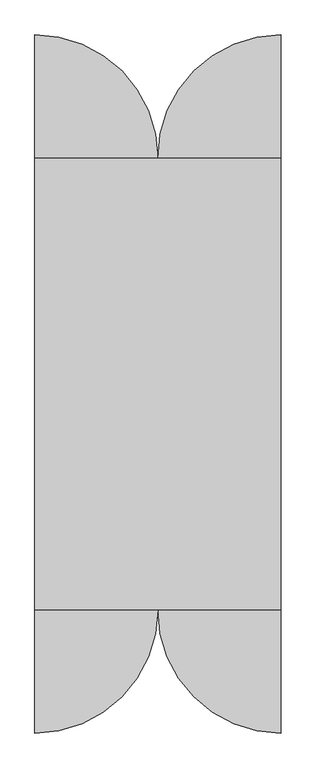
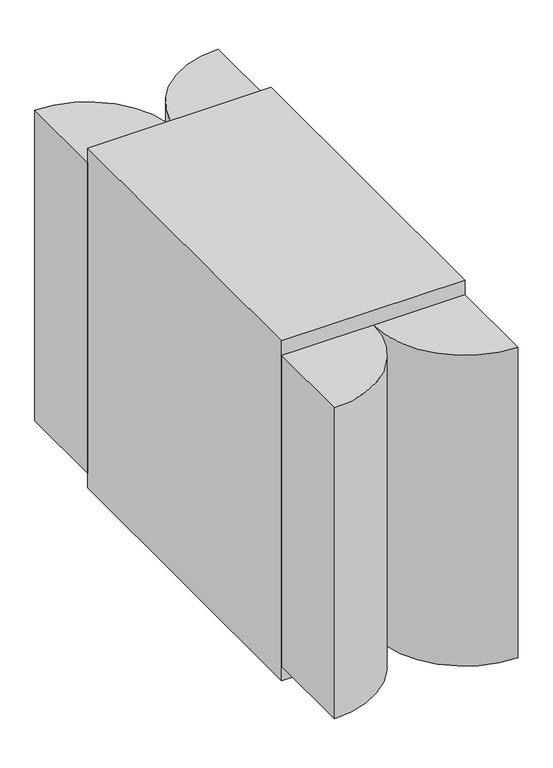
"""IFC4 building model written with IfcOpenShell, lengths in millimetres: proxy geometry, 30400_受変電設備_前後面保守形_低圧動力盤_TR+MCCB : 6.6kV/210V_油入_150kVA."""

from ifc_helpers import new_model, si_unit, point, frame, frame_2d, origin, origin_with_axes, place, context, project, spatial, polyline, circle_curve, trimmed, segment, composite_curve, outline, extrude, source, transform, mapped, element, save


def electrical_equipment_307397fe(model_context):
    return source(origin(), model_context, "Body", "SweptSolid", [
        extrude(outline(composite_curve([segment(polyline([(600.0, 1700.0), (600.0, 1100.0), (0.0, 1100.0)]), True, "CONTINUOUS"), segment(trimmed(circle_curve(frame_2d((600.0, 1100.0)), 600.0), [point((0.0, 1100.0))], [point((600.0, 1700.0))], False, "CARTESIAN"), True, "CONTINUOUS")], self_intersect=False)), frame((0.0, 0.0, 100.0), z_axis=(0.0, 0.0, 1.0), x_axis=(1.0, 0.0, 0.0)), (0.0, 0.0, 1.0), 2150.0),
        extrude(outline(composite_curve([segment(trimmed(circle_curve(frame_2d((-600.0, 1100.0)), 600.0), [point((-600.0, 1700.0))], [point((0.0, 1100.0))], False, "CARTESIAN"), True, "CONTINUOUS"), segment(polyline([(0.0, 1100.0), (-600.0, 1100.0), (-600.0, 1700.0)]), True, "CONTINUOUS")], self_intersect=False)), frame((0.0, 0.0, 100.0), z_axis=(0.0, 0.0, 1.0), x_axis=(1.0, 0.0, 0.0)), (0.0, 0.0, 1.0), 2150.0),
        extrude(outline(composite_curve([segment(polyline([(-600.0, -1700.0), (-600.0, -1100.0), (0.0, -1100.0)]), True, "CONTINUOUS"), segment(trimmed(circle_curve(frame_2d((-600.0, -1100.0)), 600.0), [point((0.0, -1100.0))], [point((-600.0, -1700.0))], False, "CARTESIAN"), True, "CONTINUOUS")], self_intersect=False)), frame((0.0, 0.0, 100.0), z_axis=(0.0, 0.0, 1.0), x_axis=(1.0, 0.0, 0.0)), (0.0, 0.0, 1.0), 2150.0),
        extrude(outline(composite_curve([segment(trimmed(circle_curve(frame_2d((600.0, -1100.0)), 600.0), [point((600.0, -1700.0))], [point((0.0, -1100.0))], False, "CARTESIAN"), True, "CONTINUOUS"), segment(polyline([(0.0, -1100.0), (600.0, -1100.0), (600.0, -1700.0)]), True, "CONTINUOUS")], self_intersect=False)), frame((0.0, 0.0, 100.0), z_axis=(0.0, 0.0, 1.0), x_axis=(1.0, 0.0, 0.0)), (0.0, 0.0, 1.0), 2150.0),
        extrude(outline(polyline([(600.0, -1100.0), (-600.0, -1100.0), (-600.0, 1100.0), (600.0, 1100.0), (600.0, -1100.0)])), origin_with_axes(), (0.0, 0.0, 1.0), 2350.0),
    ])


if __name__ == "__main__":
    model = new_model("IFC4")
    model_context = context("Model", 3, world=origin())
    ifc_project = project(units=[si_unit("LENGTHUNIT", "METRE", prefix="MILLI")], contexts=[model_context])
    site = spatial("IfcSite", under=ifc_project)
    building = spatial("IfcBuilding", under=site)
    placement = place(None, origin())
    electrical_equipment_shape = electrical_equipment_307397fe(model_context)
    element("IfcBuildingElementProxy", 1, Name="30400_受変電設備_前後面保守形_低圧動力盤_TR+MCCB : 6.6kV/210V_油入_150kVA", ObjectType="30400_受変電設備_前後面保守形_低圧動力盤_TR+MCCB : 6.6kV/210V_油入_150kVA", at=placement, inside=building, context=model_context, shape_type="MappedRepresentation", body=[
        mapped(electrical_equipment_shape, transform((0.0, 0.0, 0.0), x_axis=(1.0, 0.0, 0.0), y_axis=(0.0, 1.0, 0.0), z_axis=(0.0, 0.0, 1.0))),
    ])
    save(model, "model.ifc")
